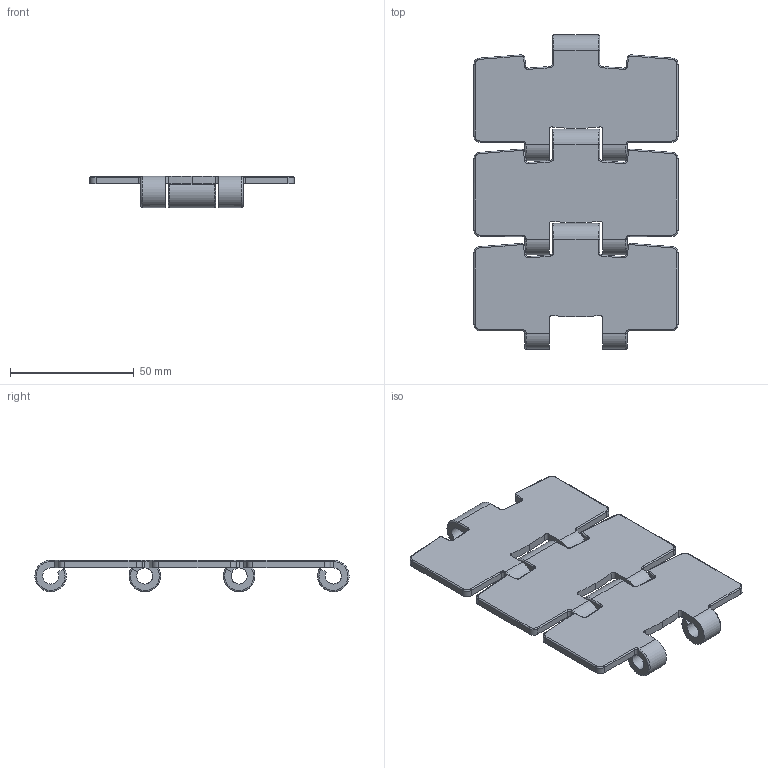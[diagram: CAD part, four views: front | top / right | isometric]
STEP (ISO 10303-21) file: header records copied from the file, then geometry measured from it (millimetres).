
FILE_DESCRIPTION(('CATIA V5 STEP Exchange'),'2;1');
FILE_NAME('X:\CODICI MOVEX\3D per clienti\Daryna Itsenko\07-11-2014\P10080102_01.stp','2014-11-07T10:38:16+00:00',('none'),('none'),'Version 5-6 Release 2012','CATIA V5 STEP AP203','none');
FILE_SCHEMA(('CONFIG_CONTROL_DESIGN'));
Length unit declared in the file: millimetre
Products named in the file (1): Part1
Bounding box: 82.5 x 127 x 12.7 mm (x, y, z)
Volume: 34092.5 mm3; surface area: 25652.8 mm2
Topology: 1 solids, 1 shells, 225 faces, 615 edges, 388 vertices
Faces by surface type: cylinder 114, plane 69, torus 42
Entity records: 7041 total; most frequent: CARTESIAN_POINT 1732, ORIENTED_EDGE 1230, DIRECTION 869, EDGE_CURVE 615, AXIS2_PLACEMENT_3D 401, VERTEX_POINT 388, VECTOR 303, LINE 303
